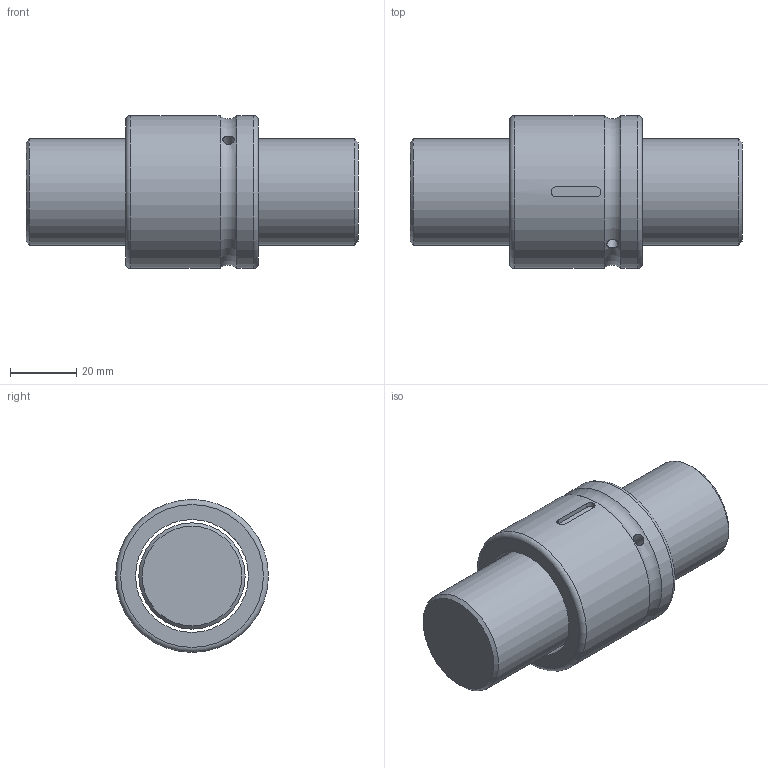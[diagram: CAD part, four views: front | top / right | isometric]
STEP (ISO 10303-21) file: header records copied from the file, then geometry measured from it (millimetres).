
FILE_DESCRIPTION(/* description */ (''),/* implementation_level */ '2;1');
FILE_NAME(/* name */ 'SCI3204',/* time_stamp */ '2007-10-26T13:18:31+08:00',/* author */ (''),/* organization */ (''),/* preprocessor_version */ 'ST-DEVELOPER v9',/* originating_system */ 'EDS PLM SOLUTIONS - UNIGRAPHICS NX 1.0',/* authorisation */ '');
FILE_SCHEMA (('CONFIG_CONTROL_DESIGN'));
Length unit declared in the file: millimetre
Products named in the file (1): FANNDA0400hi
Bounding box: 100 x 46 x 46 mm (x, y, z)
Volume: 109747 mm3; surface area: 23052.7 mm2
Topology: 2 solids, 2 shells, 19 faces, 37 edges, 23 vertices
Faces by surface type: cylinder 7, plane 7, torus 3, cone 2
Full cylindrical faces by diameter (mm): 3.5 x1, 32 x1, 34 x1, 46 x2
Entity records: 647 total; most frequent: CARTESIAN_POINT 205, DIRECTION 76, ORIENTED_EDGE 52, EDGE_LOOP 34, AXIS2_PLACEMENT_3D 34, EDGE_CURVE 26, FACE_BOUND 23, VERTEX_POINT 22
